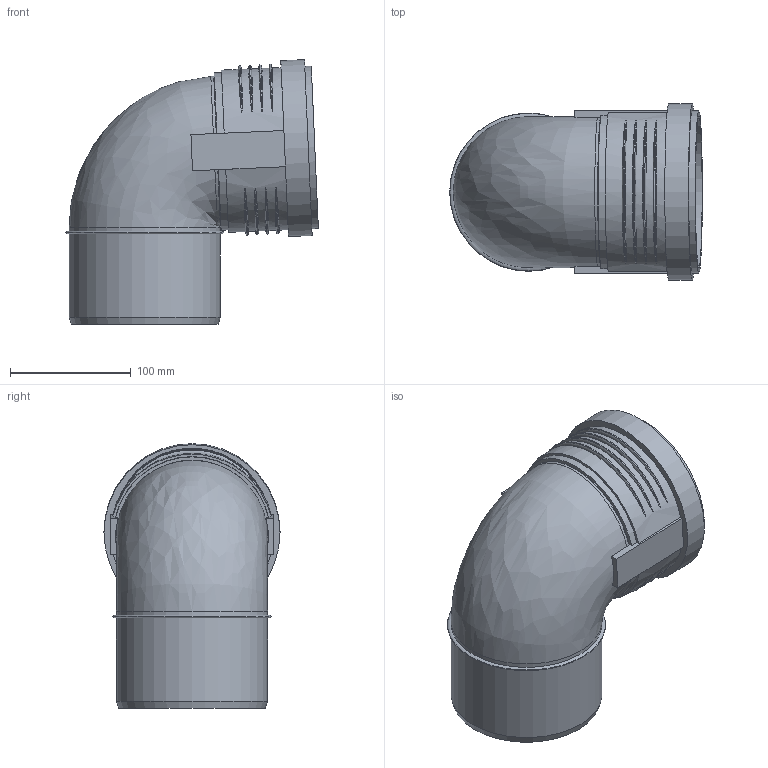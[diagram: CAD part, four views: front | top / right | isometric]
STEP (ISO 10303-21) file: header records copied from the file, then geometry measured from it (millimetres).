
FILE_DESCRIPTION(/* description */ (''),/* implementation_level */ '2;1');
FILE_NAME(/* name */ 'Z:\Geberit\Export\NewStep\390624.stp',/* time_stamp */ '2014-04-02T08:15:51+02:00',/* author */ ('ML'),/* organization */ (''),/* preprocessor_version */ 'ST-DEVELOPER v15.2',/* originating_system */ 'Autodesk Inventor 2014',/* authorisation */ '');
FILE_SCHEMA (('AUTOMOTIVE_DESIGN { 1 0 10303 214 3 1 1 }'));
Length unit declared in the file: millimetre
Products named in the file (3): 861595; 861625; 390624
Bounding box: 209.46 x 145.9 x 219.37 mm (x, y, z)
Volume: 466840.5 mm3; surface area: 230313.3 mm2
Topology: 2 solids, 2 shells, 68 faces, 162 edges, 109 vertices
Faces by surface type: torus 28, plane 19, cylinder 18, cone 2, bspline 1
Full cylindrical faces by diameter (mm): 116.8 x2, 117 x1, 125.2 x4, 126.4 x2, 134.6 x1, 137.7 x1, 145.9 x1
Entity records: 2726 total; most frequent: CARTESIAN_POINT 1150, DIRECTION 290, ORIENTED_EDGE 278, EDGE_CURVE 139, AXIS2_PLACEMENT_3D 127, VERTEX_POINT 106, EDGE_LOOP 103, STYLED_ITEM 70
